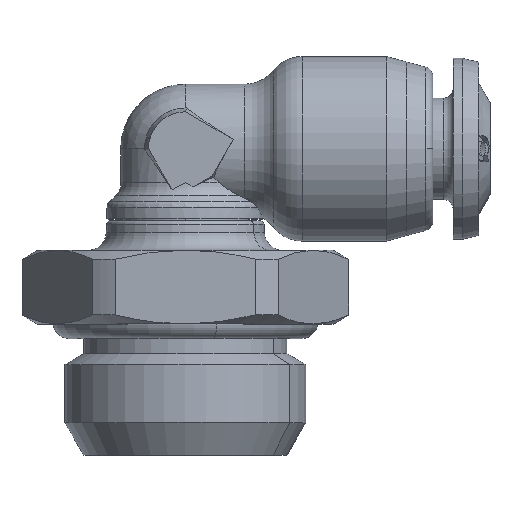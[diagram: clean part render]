
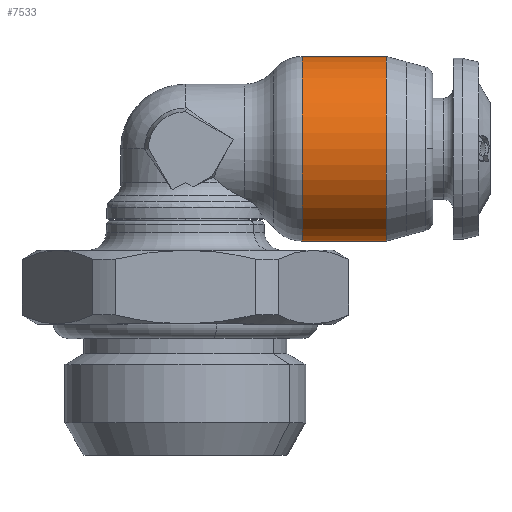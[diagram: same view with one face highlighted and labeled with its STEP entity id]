
A CAD part, top view. The second image highlights one B-rep face of the part: STEP entity #7533.
In plain terms, the highlighted cylindrical face has radius 5 mm (diameter 10 mm), a partial arc.
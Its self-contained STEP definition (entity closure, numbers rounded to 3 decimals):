
#1927 = EDGE_LOOP ( 'NONE', ( #5420, #5421, #5422, #5423 ) ) ;
#2488 = VERTEX_POINT ( 'NONE', #7512 ) ;
#2673 = VERTEX_POINT ( 'NONE', #14831 ) ;
#2674 = VERTEX_POINT ( 'NONE', #14832 ) ;
#2675 = VERTEX_POINT ( 'NONE', #14834 ) ;
#2911 = EDGE_CURVE ( 'NONE', #2675, #2674, #6496, .T. ) ;
#2913 = EDGE_CURVE ( 'NONE', #2674, #2673, #6497, .T. ) ;
#2914 = EDGE_CURVE ( 'NONE', #2488, #2673, #6499, .T. ) ;
#2915 = EDGE_CURVE ( 'NONE', #2675, #2488, #6498, .T. ) ;
#5420 = ORIENTED_EDGE ( 'NONE', *, *, #2911, .T. ) ;
#5421 = ORIENTED_EDGE ( 'NONE', *, *, #2913, .T. ) ;
#5422 = ORIENTED_EDGE ( 'NONE', *, *, #2914, .F. ) ;
#5423 = ORIENTED_EDGE ( 'NONE', *, *, #2915, .F. ) ;
#6496 = CIRCLE ( 'NONE', #14165, 5. ) ;
#6497 = LINE ( 'NONE', #6681, #6500 ) ;
#6498 = LINE ( 'NONE', #6686, #6503 ) ;
#6499 = CIRCLE ( 'NONE', #14167, 5. ) ;
#6500 = VECTOR ( 'NONE', #6670, 1000. ) ;
#6503 = VECTOR ( 'NONE', #6674, 1000. ) ;
#6567 = FACE_OUTER_BOUND ( 'NONE', #1927, .T. ) ;
#6575 = CYLINDRICAL_SURFACE ( 'NONE', #14246, 5. ) ;
#6670 = DIRECTION ( 'NONE',  ( 1., 0., 0. ) ) ;
#6674 = DIRECTION ( 'NONE',  ( 1., 0., 0. ) ) ;
#6678 = CARTESIAN_POINT ( 'NONE',  ( 6.328, 0., 0. ) ) ;
#6679 = DIRECTION ( 'NONE',  ( 1., 0., 0. ) ) ;
#6680 = DIRECTION ( 'NONE',  ( 0., 1., 0. ) ) ;
#6681 = CARTESIAN_POINT ( 'NONE',  ( 12., -5., 0. ) ) ;
#6686 = CARTESIAN_POINT ( 'NONE',  ( 12., 5., 0. ) ) ;
#6687 = CARTESIAN_POINT ( 'NONE',  ( 10.88, 0., 0. ) ) ;
#6688 = DIRECTION ( 'NONE',  ( 1., 0., 0. ) ) ;
#6689 = DIRECTION ( 'NONE',  ( 0., 1., 0. ) ) ;
#7512 = CARTESIAN_POINT ( 'NONE',  ( 10.88, 5., 0. ) ) ;
#7533 = ADVANCED_FACE ( 'NONE', ( #6567 ), #6575, .T. ) ;
#14165 = AXIS2_PLACEMENT_3D ( 'NONE', #6678, #6679, #6680 ) ;
#14167 = AXIS2_PLACEMENT_3D ( 'NONE', #6687, #6688, #6689 ) ;
#14246 = AXIS2_PLACEMENT_3D ( 'NONE', #15227, #15228, #15236 ) ;
#14831 = CARTESIAN_POINT ( 'NONE',  ( 10.88, -5., 0. ) ) ;
#14832 = CARTESIAN_POINT ( 'NONE',  ( 6.328, -5., 0. ) ) ;
#14834 = CARTESIAN_POINT ( 'NONE',  ( 6.328, 5., 0. ) ) ;
#15227 = CARTESIAN_POINT ( 'NONE',  ( 12., 0., 0. ) ) ;
#15228 = DIRECTION ( 'NONE',  ( 1., 0., 0. ) ) ;
#15236 = DIRECTION ( 'NONE',  ( 0., 1., 0. ) ) ;
